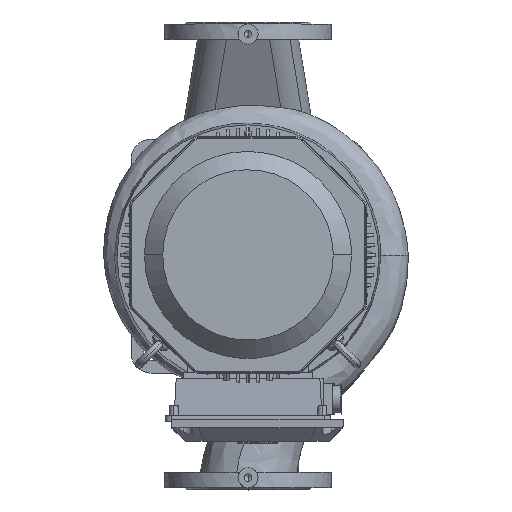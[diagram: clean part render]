
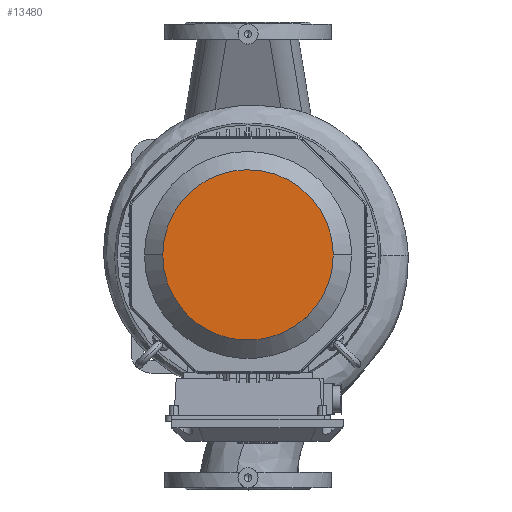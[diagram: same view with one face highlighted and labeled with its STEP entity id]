
A CAD part, top view. The second image highlights one B-rep face of the part: STEP entity #13480.
In plain terms, the highlighted free-form (B-spline) face has degree [1, 1] with [2, 2] control points.
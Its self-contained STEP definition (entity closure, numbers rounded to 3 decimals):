
#13480=ADVANCED_FACE('     F83',(#26994),#26995,.T.);
#13656=EDGE_CURVE('    E195',#27260,#27261,#27262,.T.);
#13660=EDGE_CURVE('    E195',#27261,#27260,#27266,.T.);
#26994=FACE_OUTER_BOUND('',#62182,.T.);
#26995=B_SPLINE_SURFACE_WITH_KNOTS('',1,1,((#62183,#62184),(#62185,#62186)),.UNSPECIFIED.,.F.,.F.,.F.,(2,2),(2,2),(0.044,0.955),(0.039,0.96),.UNSPECIFIED.);
#27260=VERTEX_POINT('',#63738);
#27261=VERTEX_POINT('',#63739);
#27262=(B_SPLINE_CURVE(2,(#63741,#63742,#63743,#63744,#63745),.UNSPECIFIED.,.F.,.F.)B_SPLINE_CURVE_WITH_KNOTS((3,2,3),(62.047,82.73,124.095),.UNSPECIFIED.)RATIONAL_B_SPLINE_CURVE((0.75,0.75,1.0,0.5,1.0))BOUNDED_CURVE()REPRESENTATION_ITEM('')GEOMETRIC_REPRESENTATION_ITEM()CURVE());
#27266=(B_SPLINE_CURVE(2,(#63759,#63760,#63761,#63762,#63763),.UNSPECIFIED.,.F.,.F.)B_SPLINE_CURVE_WITH_KNOTS((3,2,3),(0.0,41.365,62.047),.UNSPECIFIED.)RATIONAL_B_SPLINE_CURVE((1.0,0.5,1.0,0.75,0.75))BOUNDED_CURVE()REPRESENTATION_ITEM('')GEOMETRIC_REPRESENTATION_ITEM()CURVE());
#62182=EDGE_LOOP('',(#82983,#82984));
#62183=CARTESIAN_POINT('',(-148.051,129.131,-177.0));
#62184=CARTESIAN_POINT('',(-148.051,-126.525,-177.0));
#62185=CARTESIAN_POINT('',(107.447,129.131,-177.0));
#62186=CARTESIAN_POINT('',(107.447,-126.525,-177.0));
#63738=CARTESIAN_POINT('',(-147.622,1.096,-177.0));
#63739=CARTESIAN_POINT('',(107.438,1.096,-177.0));
#63741=CARTESIAN_POINT('',(-147.622,1.096,-177.0));
#63742=CARTESIAN_POINT('',(-147.622,-72.533,-177.0));
#63743=CARTESIAN_POINT('',(-83.857,-109.348,-177.0));
#63744=CARTESIAN_POINT('',(107.438,-219.792,-177.0));
#63745=CARTESIAN_POINT('',(107.438,1.096,-177.0));
#63759=CARTESIAN_POINT('',(107.438,1.096,-177.0));
#63760=CARTESIAN_POINT('',(107.438,221.985,-177.0));
#63761=CARTESIAN_POINT('',(-83.857,111.541,-177.0));
#63762=CARTESIAN_POINT('',(-147.622,74.726,-177.0));
#63763=CARTESIAN_POINT('',(-147.622,1.096,-177.0));
#82983=ORIENTED_EDGE('',*,*,#13660,.F.);
#82984=ORIENTED_EDGE('',*,*,#13656,.F.);
